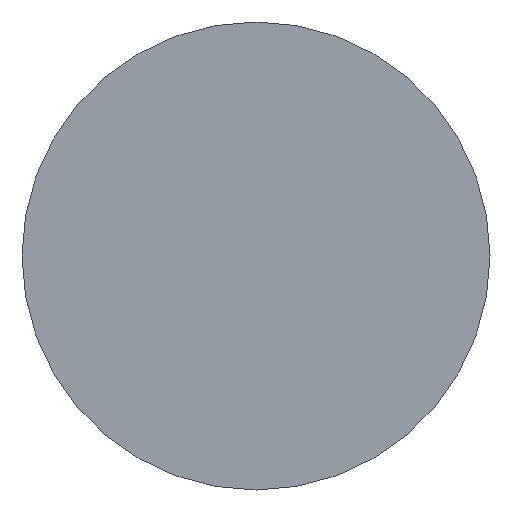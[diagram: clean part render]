
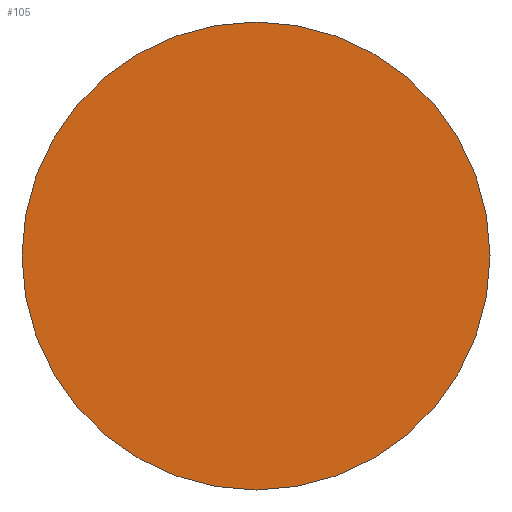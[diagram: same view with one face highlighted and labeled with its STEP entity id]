
A CAD part, left-side view. The second image highlights one B-rep face of the part: STEP entity #105.
In plain terms, the highlighted planar face has unit normal (-1, 0, 0).
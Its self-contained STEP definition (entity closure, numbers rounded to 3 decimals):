
#22 = VERTEX_POINT('',#23);
#23 = CARTESIAN_POINT('',(620.,31.5,0.));
#32 = CYLINDRICAL_SURFACE('',#33,31.5);
#33 = AXIS2_PLACEMENT_3D('',#34,#35,#36);
#34 = CARTESIAN_POINT('',(620.,0.,0.));
#35 = DIRECTION('',(-1.,-0.,-0.));
#36 = DIRECTION('',(0.,1.,0.));
#79 = EDGE_CURVE('',#22,#22,#80,.T.);
#80 = SURFACE_CURVE('',#81,(#86,#93),.PCURVE_S1.);
#81 = CIRCLE('',#82,31.5);
#82 = AXIS2_PLACEMENT_3D('',#83,#84,#85);
#83 = CARTESIAN_POINT('',(620.,0.,0.));
#84 = DIRECTION('',(1.,0.,0.));
#85 = DIRECTION('',(0.,1.,0.));
#86 = PCURVE('',#32,#87);
#87 = DEFINITIONAL_REPRESENTATION('',(#88),#92);
#88 = LINE('',#89,#90);
#89 = CARTESIAN_POINT('',(-0.,0.));
#90 = VECTOR('',#91,1.);
#91 = DIRECTION('',(-1.,0.));
#92 = ( GEOMETRIC_REPRESENTATION_CONTEXT(2) 
PARAMETRIC_REPRESENTATION_CONTEXT() REPRESENTATION_CONTEXT('2D SPACE',''
  ) );
#93 = PCURVE('',#94,#99);
#94 = PLANE('',#95);
#95 = AXIS2_PLACEMENT_3D('',#96,#97,#98);
#96 = CARTESIAN_POINT('',(620.,0.,0.));
#97 = DIRECTION('',(1.,0.,0.));
#98 = DIRECTION('',(-0.,0.,1.));
#99 = DEFINITIONAL_REPRESENTATION('',(#100),#104);
#100 = CIRCLE('',#101,31.5);
#101 = AXIS2_PLACEMENT_2D('',#102,#103);
#102 = CARTESIAN_POINT('',(0.,0.));
#103 = DIRECTION('',(0.,-1.));
#104 = ( GEOMETRIC_REPRESENTATION_CONTEXT(2) 
PARAMETRIC_REPRESENTATION_CONTEXT() REPRESENTATION_CONTEXT('2D SPACE',''
  ) );
#105 = ADVANCED_FACE('',(#106),#94,.F.);
#106 = FACE_BOUND('',#107,.F.);
#107 = EDGE_LOOP('',(#108));
#108 = ORIENTED_EDGE('',*,*,#79,.T.);
